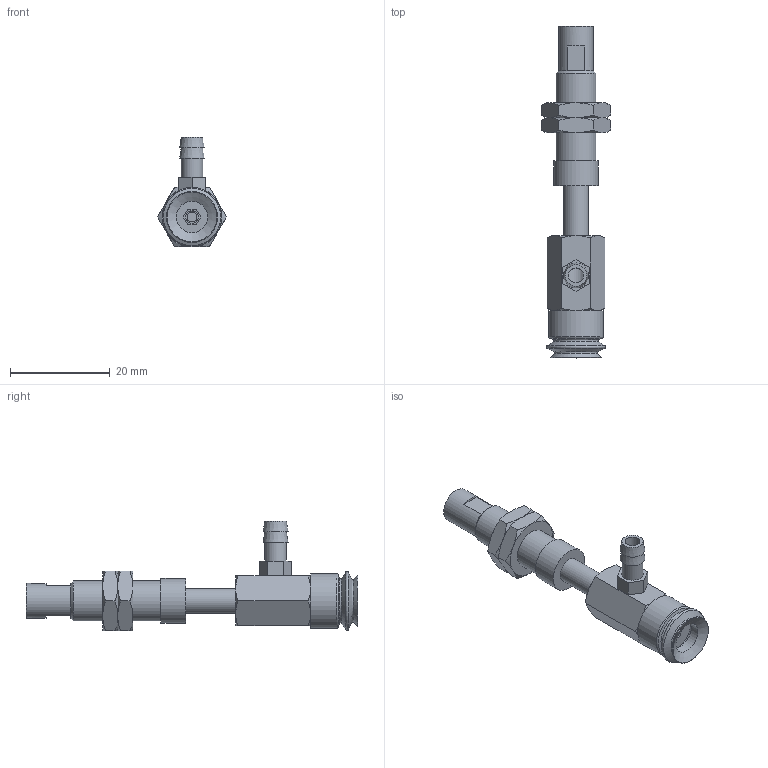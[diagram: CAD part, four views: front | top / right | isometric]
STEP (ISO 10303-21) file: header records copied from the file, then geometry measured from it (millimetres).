
FILE_DESCRIPTION(('STEP AP203'),'1');
FILE_NAME('-T.stp','2025-04-24T00:36:39',(' '),(' '),'Spatial InterOp 3D',' ',' ');
FILE_SCHEMA(('CONFIG_CONTROL_DESIGN'));
Length unit declared in the file: millimetre
Products named in the file (8): BNABPJYS-10-10-※-T; Adapter-10-NAPJ; CONNECTOR_S-10-10; NUT-NAPJ-10-10-s; NAPJTS-10-10-FBODY; NAPJTS-10-10-MBODY; BPJG-10-※; T
Assembly tree (8 placements, depth 2):
  BNABPJYS-10-10-※-T
    Adapter-10-NAPJ
    CONNECTOR_S-10-10
    NUT-NAPJ-10-10-s  x2
    NAPJTS-10-10-FBODY
    NAPJTS-10-10-MBODY
    BPJG-10-※
    T
Bounding box: 13.86 x 66.5 x 22 mm (x, y, z)
Volume: 4113 mm3; surface area: 5194.9 mm2
Topology: 8 solids, 8 shells, 154 faces, 321 edges, 196 vertices
Faces by surface type: plane 69, cone 56, cylinder 22, torus 7
Full cylindrical faces by diameter (mm): 2 x1, 2.5 x1, 3 x1, 4.134 x3, 4.3 x1, 4.6 x1, 5 x5, 6.266 x1, 7 x1, 7.188 x2, 7.8 x1, 8 x2, 9 x1, 11 x1
Entity records: 3768 total; most frequent: CARTESIAN_POINT 806, DIRECTION 546, ORIENTED_EDGE 436, AXIS2_PLACEMENT_3D 236, EDGE_CURVE 218, EDGE_LOOP 204, VERTEX_POINT 160, FACE_OUTER_BOUND 159
